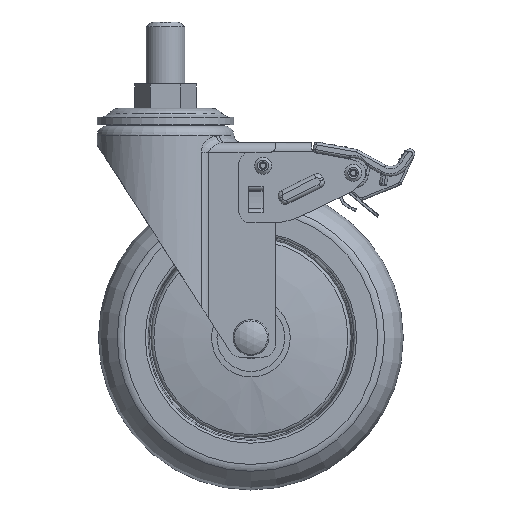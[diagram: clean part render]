
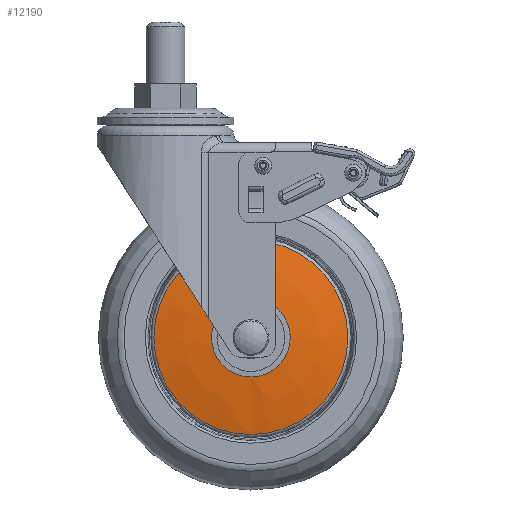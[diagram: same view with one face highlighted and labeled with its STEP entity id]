
A CAD part, front view. The second image highlights one B-rep face of the part: STEP entity #12190.
In plain terms, the highlighted free-form (B-spline) face has degree [2, 2] with [3, 9] control points.
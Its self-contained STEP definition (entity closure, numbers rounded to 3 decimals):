
#79=(
BOUNDED_CURVE()
B_SPLINE_CURVE(2,(#21395,#21396,#21397),.UNSPECIFIED.,.F.,.F.)
B_SPLINE_CURVE_WITH_KNOTS((3,3),(1.358,1.496),
 .UNSPECIFIED.)
CURVE()
GEOMETRIC_REPRESENTATION_ITEM()
RATIONAL_B_SPLINE_CURVE((1.,0.998,1.))
REPRESENTATION_ITEM('')
);
#125=(
BOUNDED_SURFACE()
B_SPLINE_SURFACE(2,2,((#21364,#21365,#21366,#21367,#21368,#21369,#21370,
#21371,#21372),(#21373,#21374,#21375,#21376,#21377,#21378,#21379,#21380,
#21381),(#21382,#21383,#21384,#21385,#21386,#21387,#21388,#21389,#21390)),
 .UNSPECIFIED.,.F.,.T.,.F.)
B_SPLINE_SURFACE_WITH_KNOTS((3,3),(3,2,2,2,3),(-1.496,-1.358),
(-3.142,-1.571,0.,1.571,3.142),
 .UNSPECIFIED.)
GEOMETRIC_REPRESENTATION_ITEM()
RATIONAL_B_SPLINE_SURFACE(((1.,0.707,1.,0.707,1.,
0.707,1.,0.707,1.),(0.998,0.705,
0.998,0.705,0.998,0.705,
0.998,0.705,0.998),(1.,0.707,
1.,0.707,1.,0.707,1.,0.707,1.)))
REPRESENTATION_ITEM('')
SURFACE()
);
#1390=FACE_OUTER_BOUND('',#2233,.T.);
#2233=EDGE_LOOP('',(#10214,#10215,#10216,#10217,#10218,#10219));
#4667=CIRCLE('',#13460,16.136);
#4668=CIRCLE('',#13461,16.136);
#4669=CIRCLE('',#13462,39.788);
#4670=CIRCLE('',#13463,39.788);
#5731=VERTEX_POINT('',#21357);
#5732=VERTEX_POINT('',#21358);
#5733=VERTEX_POINT('',#21391);
#5734=VERTEX_POINT('',#21392);
#7306=EDGE_CURVE('',#5731,#5732,#4667,.T.);
#7307=EDGE_CURVE('',#5732,#5731,#4668,.T.);
#7309=EDGE_CURVE('',#5733,#5734,#4669,.T.);
#7310=EDGE_CURVE('',#5734,#5733,#4670,.T.);
#7311=EDGE_CURVE('',#5734,#5732,#79,.T.);
#10214=ORIENTED_EDGE('',*,*,#7309,.F.);
#10215=ORIENTED_EDGE('',*,*,#7310,.F.);
#10216=ORIENTED_EDGE('',*,*,#7311,.T.);
#10217=ORIENTED_EDGE('',*,*,#7307,.T.);
#10218=ORIENTED_EDGE('',*,*,#7306,.T.);
#10219=ORIENTED_EDGE('',*,*,#7311,.F.);
#12190=ADVANCED_FACE('',(#1390),#125,.F.);
#13460=AXIS2_PLACEMENT_3D('',#21359,#16541,#16542);
#13461=AXIS2_PLACEMENT_3D('',#21360,#16543,#16544);
#13462=AXIS2_PLACEMENT_3D('',#21393,#16545,#16546);
#13463=AXIS2_PLACEMENT_3D('',#21394,#16547,#16548);
#16541=DIRECTION('center_axis',(0.,1.,0.));
#16542=DIRECTION('ref_axis',(1.,0.,0.));
#16543=DIRECTION('center_axis',(0.,1.,0.));
#16544=DIRECTION('ref_axis',(1.,0.,0.));
#16545=DIRECTION('center_axis',(0.,1.,0.));
#16546=DIRECTION('ref_axis',(1.,0.,0.));
#16547=DIRECTION('center_axis',(0.,1.,0.));
#16548=DIRECTION('ref_axis',(1.,0.,0.));
#21357=CARTESIAN_POINT('',(26.5,-18.667,-23.264));
#21358=CARTESIAN_POINT('',(26.5,-18.667,-55.536));
#21359=CARTESIAN_POINT('Origin',(26.5,-18.667,-39.4));
#21360=CARTESIAN_POINT('Origin',(26.5,-18.667,-39.4));
#21364=CARTESIAN_POINT('Ctrl Pts',(26.5,-18.667,-55.536));
#21365=CARTESIAN_POINT('Ctrl Pts',(10.364,-18.667,-55.536));
#21366=CARTESIAN_POINT('Ctrl Pts',(10.364,-18.667,-39.4));
#21367=CARTESIAN_POINT('Ctrl Pts',(10.364,-18.667,-23.264));
#21368=CARTESIAN_POINT('Ctrl Pts',(26.5,-18.667,-23.264));
#21369=CARTESIAN_POINT('Ctrl Pts',(42.636,-18.667,-23.264));
#21370=CARTESIAN_POINT('Ctrl Pts',(42.636,-18.667,-39.4));
#21371=CARTESIAN_POINT('Ctrl Pts',(42.636,-18.667,-55.536));
#21372=CARTESIAN_POINT('Ctrl Pts',(26.5,-18.667,-55.536));
#21373=CARTESIAN_POINT('Ctrl Pts',(26.5,-17.777,-67.48));
#21374=CARTESIAN_POINT('Ctrl Pts',(-1.58,-17.777,
-67.48));
#21375=CARTESIAN_POINT('Ctrl Pts',(-1.58,-17.777,
-39.4));
#21376=CARTESIAN_POINT('Ctrl Pts',(-1.58,-17.777,
-11.32));
#21377=CARTESIAN_POINT('Ctrl Pts',(26.5,-17.777,-11.32));
#21378=CARTESIAN_POINT('Ctrl Pts',(54.58,-17.777,-11.32));
#21379=CARTESIAN_POINT('Ctrl Pts',(54.58,-17.777,-39.4));
#21380=CARTESIAN_POINT('Ctrl Pts',(54.58,-17.777,-67.48));
#21381=CARTESIAN_POINT('Ctrl Pts',(26.5,-17.777,-67.48));
#21382=CARTESIAN_POINT('Ctrl Pts',(26.5,-15.25,-79.188));
#21383=CARTESIAN_POINT('Ctrl Pts',(-13.288,-15.25,
-79.188));
#21384=CARTESIAN_POINT('Ctrl Pts',(-13.288,-15.25,
-39.4));
#21385=CARTESIAN_POINT('Ctrl Pts',(-13.288,-15.25,
0.388));
#21386=CARTESIAN_POINT('Ctrl Pts',(26.5,-15.25,0.388));
#21387=CARTESIAN_POINT('Ctrl Pts',(66.288,-15.25,0.388));
#21388=CARTESIAN_POINT('Ctrl Pts',(66.288,-15.25,-39.4));
#21389=CARTESIAN_POINT('Ctrl Pts',(66.288,-15.25,-79.188));
#21390=CARTESIAN_POINT('Ctrl Pts',(26.5,-15.25,-79.188));
#21391=CARTESIAN_POINT('',(26.5,-15.25,0.388));
#21392=CARTESIAN_POINT('',(26.5,-15.25,-79.188));
#21393=CARTESIAN_POINT('Origin',(26.5,-15.25,-39.4));
#21394=CARTESIAN_POINT('Origin',(26.5,-15.25,-39.4));
#21395=CARTESIAN_POINT('Ctrl Pts',(26.5,-15.25,-79.188));
#21396=CARTESIAN_POINT('Ctrl Pts',(26.5,-17.777,-67.48));
#21397=CARTESIAN_POINT('Ctrl Pts',(26.5,-18.667,-55.536));
